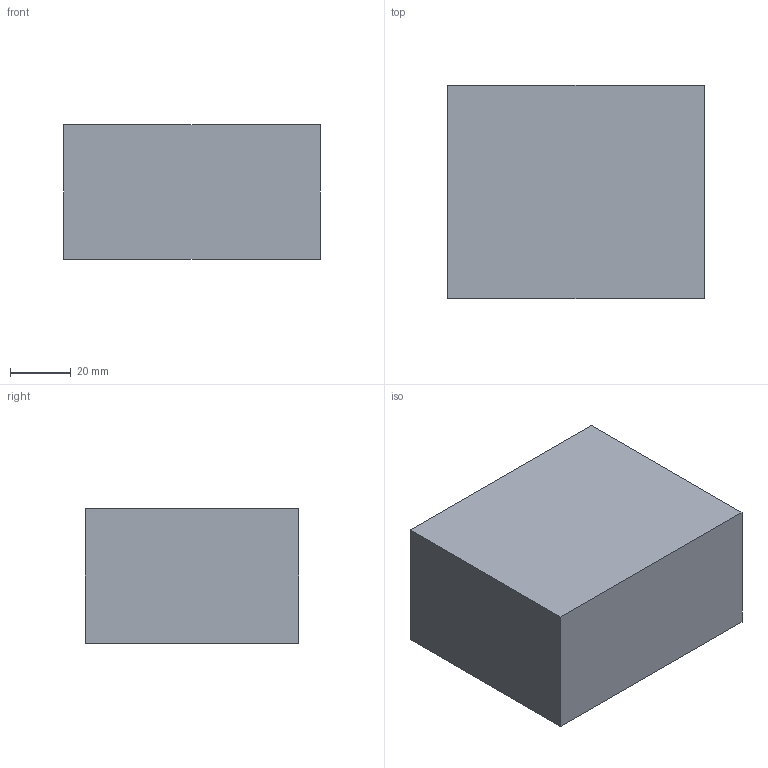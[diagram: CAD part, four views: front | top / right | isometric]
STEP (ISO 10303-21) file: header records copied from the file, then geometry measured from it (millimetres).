
FILE_DESCRIPTION(('FreeCAD Model'),'2;1');
FILE_NAME('Open CASCADE Shape Model','2026-10-26T00:06:28',('FreeCAD'),( 'FreeCAD'),'Open CASCADE STEP processor 8.0','FreeCAD','Unknown');
FILE_SCHEMA(('AUTOMOTIVE_DESIGN { 1 0 10303 214 1 1 1 1 }'));
Length unit declared in the file: millimetre
Products named in the file (1): Open CASCADE STEP translator 8.0 6
Bounding box: 84 x 70 x 44 mm (x, y, z)
Volume: 258720 mm3; surface area: 25312 mm2
Topology: 1 solids, 1 shells, 6 faces, 12 edges, 8 vertices
Faces by surface type: plane 6
Entity records: 166 total; most frequent: CARTESIAN_POINT 27, DIRECTION 26, ORIENTED_EDGE 24, EDGE_CURVE 12, LINE 12, VECTOR 12, VERTEX_POINT 8, AXIS2_PLACEMENT_3D 7
